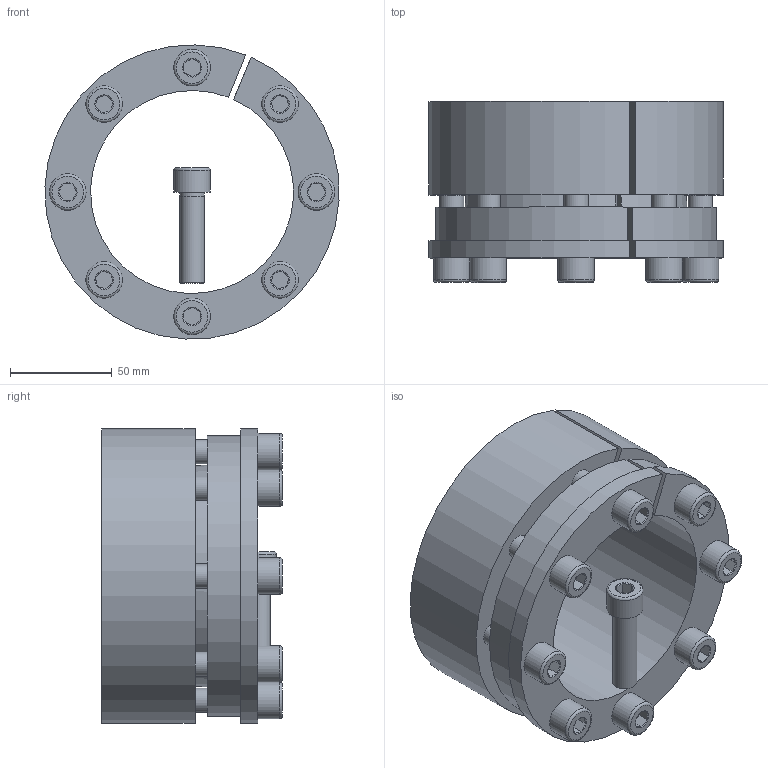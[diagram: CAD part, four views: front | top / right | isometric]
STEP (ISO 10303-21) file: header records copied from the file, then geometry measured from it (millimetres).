
FILE_DESCRIPTION( ( 'Unknown' ), '1' );
FILE_NAME( 'C:/Dokumente und Einstellungen/Sven/Desktop/homepage/cad - homepage/KBS70/KBS 70 - 100 x 145.stp', 'Unknown', ( 'Unknown' ), ( 'Unknown' ), 'XStep 1.0', 'Unknown', ' ' );
FILE_SCHEMA( ( 'automotive_design' ) );
Length unit declared in the file: millimetre
Products named in the file (3): Assem1; KBS 70 - 100 x 145; ISO EN DIN 4762 M12x45
Bounding box: 144.84 x 89 x 144.9 mm (x, y, z)
Volume: 1130893.9 mm3; surface area: 247893.5 mm2
Topology: 11 solids, 11 shells, 285 faces, 583 edges, 356 vertices
Faces by surface type: plane 124, cylinder 76, cone 67, torus 18
Full cylindrical faces by diameter (mm): 11 x9, 12 x50, 18 x9
Entity records: 1882 total; most frequent: CARTESIAN_POINT 305, DIRECTION 284, ORIENTED_EDGE 206, AXIS2_PLACEMENT_3D 126, EDGE_LOOP 114, EDGE_CURVE 103, VERTEX_POINT 79, FACE_OUTER_BOUND 77
